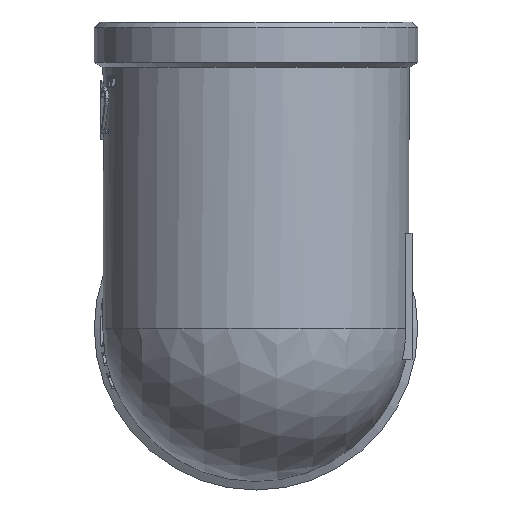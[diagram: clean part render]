
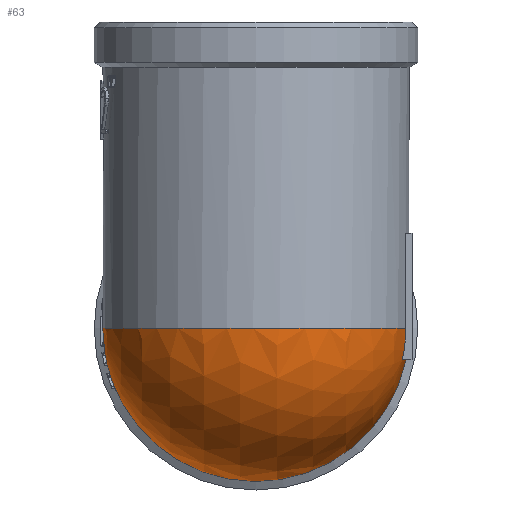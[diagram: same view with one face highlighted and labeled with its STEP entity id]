
A CAD part, front view. The second image highlights one B-rep face of the part: STEP entity #63.
In plain terms, the highlighted spherical face has radius 26.5 mm.
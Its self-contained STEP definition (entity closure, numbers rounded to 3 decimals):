
#63=ADVANCED_FACE('',(#434),#436,.T.);
#434=FACE_BOUND('',#435,.T.);
#435=EDGE_LOOP('',(#2374,#2375,#2376,#2377));
#436=SPHERICAL_SURFACE('',#437,26.5);
#437=AXIS2_PLACEMENT_3D('',#438,#439,#440);
#438=CARTESIAN_POINT('',(0.,0.,0.));
#439=DIRECTION('',(-1.,0.,0.));
#440=DIRECTION('',(0.,0.,-1.));
#2374=ORIENTED_EDGE('',*,*,#3939,.F.);
#2375=ORIENTED_EDGE('',*,*,#3934,.F.);
#2376=ORIENTED_EDGE('',*,*,#3947,.F.);
#2377=ORIENTED_EDGE('',*,*,#4045,.F.);
#3934=EDGE_CURVE('',#4610,#4612,#4613,.T.);
#3939=EDGE_CURVE('',#4612,#4616,#4620,.F.);
#3947=EDGE_CURVE('',#4631,#4610,#4633,.T.);
#4045=EDGE_CURVE('',#4616,#4631,#4828,.F.);
#4610=VERTEX_POINT('',#5775);
#4612=VERTEX_POINT('',#5779);
#4613=CIRCLE('',#5780,25.923);
#4616=VERTEX_POINT('',#5790);
#4620=CIRCLE('',#5798,25.923);
#4631=VERTEX_POINT('',#5863);
#4633=CIRCLE('',#5885,26.5);
#4828=CIRCLE('',#7049,26.5);
#5775=CARTESIAN_POINT('',(25.923,-5.5,0.));
#5779=CARTESIAN_POINT('',(25.333,-5.5,-5.5));
#5780=AXIS2_PLACEMENT_3D('',#5781,#5782,#5783);
#5781=CARTESIAN_POINT('',(0.,-5.5,0.));
#5782=DIRECTION('',(0.,1.,0.));
#5783=DIRECTION('',(1.,0.,0.));
#5790=CARTESIAN_POINT('',(25.923,0.,-5.5));
#5798=AXIS2_PLACEMENT_3D('',#5799,#5800,#5801);
#5799=CARTESIAN_POINT('',(0.,0.,-5.5));
#5800=DIRECTION('',(0.,0.,-1.));
#5801=DIRECTION('',(1.,0.,0.));
#5863=CARTESIAN_POINT('',(-26.5,0.,0.));
#5885=AXIS2_PLACEMENT_3D('',#5886,#5887,#5888);
#5886=CARTESIAN_POINT('',(0.,0.,0.));
#5887=DIRECTION('',(0.,0.,1.));
#5888=DIRECTION('',(-1.,0.,0.));
#7049=AXIS2_PLACEMENT_3D('',#7050,#7051,#7052);
#7050=CARTESIAN_POINT('',(0.,0.,0.));
#7051=DIRECTION('',(0.,-1.,0.));
#7052=DIRECTION('',(-1.,0.,0.));
